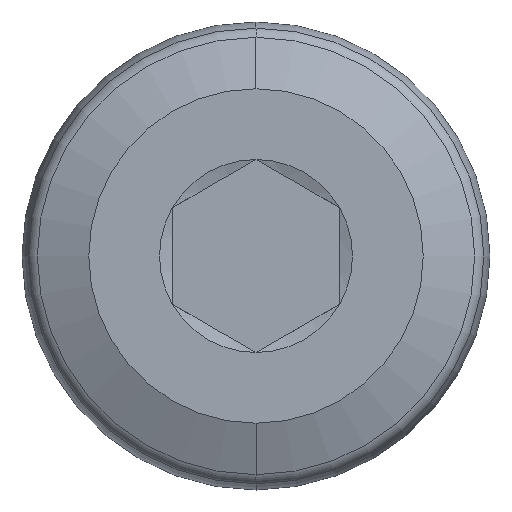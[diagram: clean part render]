
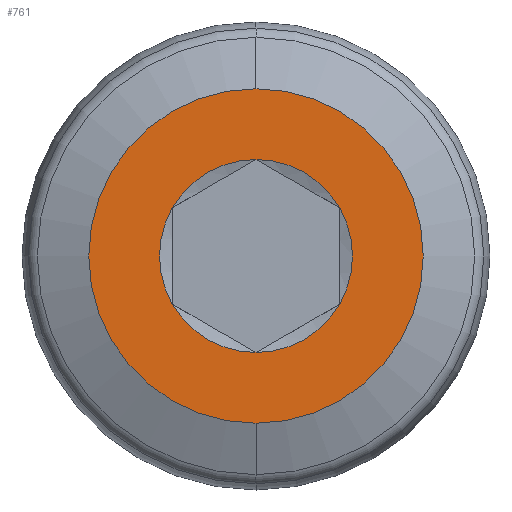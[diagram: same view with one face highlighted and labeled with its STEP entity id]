
A CAD part, left-side view. The second image highlights one B-rep face of the part: STEP entity #761.
In plain terms, the highlighted planar face has unit normal (-1, 0, 0).
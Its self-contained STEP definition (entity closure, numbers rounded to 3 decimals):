
#14 = CIRCLE ( 'NONE', #82, 2.887 ) ;
#15 = ORIENTED_EDGE ( 'NONE', *, *, #537, .T. ) ;
#20 = ORIENTED_EDGE ( 'NONE', *, *, #704, .T. ) ;
#23 = CARTESIAN_POINT ( 'NONE',  ( 0., 0., 0. ) ) ;
#32 = CARTESIAN_POINT ( 'NONE',  ( 0., 0., -2.887 ) ) ;
#34 = AXIS2_PLACEMENT_3D ( 'NONE', #23, #800, #221 ) ;
#41 = EDGE_CURVE ( 'NONE', #138, #515, #14, .T. ) ;
#75 = EDGE_CURVE ( 'NONE', #515, #622, #626, .T. ) ;
#82 = AXIS2_PLACEMENT_3D ( 'NONE', #428, #483, #668 ) ;
#86 = FACE_OUTER_BOUND ( 'NONE', #128, .T. ) ;
#89 = DIRECTION ( 'NONE',  ( 1., 0., 0. ) ) ;
#106 = EDGE_CURVE ( 'NONE', #647, #644, #717, .T. ) ;
#110 = AXIS2_PLACEMENT_3D ( 'NONE', #211, #727, #493 ) ;
#112 = DIRECTION ( 'NONE',  ( 0., 0., -1. ) ) ;
#114 = ORIENTED_EDGE ( 'NONE', *, *, #400, .T. ) ;
#117 = EDGE_CURVE ( 'NONE', #124, #481, #123, .T. ) ;
#123 = CIRCLE ( 'NONE', #34, 2.887 ) ;
#124 = VERTEX_POINT ( 'NONE', #736 ) ;
#128 = EDGE_LOOP ( 'NONE', ( #666, #759 ) ) ;
#137 = CARTESIAN_POINT ( 'NONE',  ( 0., 0., 0. ) ) ;
#138 = VERTEX_POINT ( 'NONE', #375 ) ;
#186 = DIRECTION ( 'NONE',  ( 1., 0., 0. ) ) ;
#199 = CIRCLE ( 'NONE', #688, 2.887 ) ;
#211 = CARTESIAN_POINT ( 'NONE',  ( 0., 0., 0. ) ) ;
#221 = DIRECTION ( 'NONE',  ( 0., 0., -1. ) ) ;
#250 = ORIENTED_EDGE ( 'NONE', *, *, #75, .T. ) ;
#278 = CARTESIAN_POINT ( 'NONE',  ( 0., 0., 0. ) ) ;
#289 = ORIENTED_EDGE ( 'NONE', *, *, #117, .T. ) ;
#328 = EDGE_CURVE ( 'NONE', #644, #647, #361, .T. ) ;
#335 = DIRECTION ( 'NONE',  ( 1., 0., 0. ) ) ;
#355 = DIRECTION ( 'NONE',  ( 0., 0., 1. ) ) ;
#361 = CIRCLE ( 'NONE', #577, 5. ) ;
#363 = DIRECTION ( 'NONE',  ( 1., 0., 0. ) ) ;
#375 = CARTESIAN_POINT ( 'NONE',  ( 0., 2.5, 1.443 ) ) ;
#389 = CARTESIAN_POINT ( 'NONE',  ( 0., 0., 0. ) ) ;
#400 = EDGE_CURVE ( 'NONE', #405, #138, #199, .T. ) ;
#401 = AXIS2_PLACEMENT_3D ( 'NONE', #614, #89, #559 ) ;
#405 = VERTEX_POINT ( 'NONE', #653 ) ;
#416 = FACE_BOUND ( 'NONE', #586, .T. ) ;
#428 = CARTESIAN_POINT ( 'NONE',  ( 0., 0., 0. ) ) ;
#441 = CARTESIAN_POINT ( 'NONE',  ( 0., 0., 0. ) ) ;
#466 = ORIENTED_EDGE ( 'NONE', *, *, #41, .T. ) ;
#481 = VERTEX_POINT ( 'NONE', #32 ) ;
#483 = DIRECTION ( 'NONE',  ( 1., 0., 0. ) ) ;
#493 = DIRECTION ( 'NONE',  ( 0., 0., -1. ) ) ;
#496 = AXIS2_PLACEMENT_3D ( 'NONE', #441, #694, #112 ) ;
#515 = VERTEX_POINT ( 'NONE', #546 ) ;
#535 = PLANE ( 'NONE',  #590 ) ;
#537 = EDGE_CURVE ( 'NONE', #481, #405, #790, .T. ) ;
#546 = CARTESIAN_POINT ( 'NONE',  ( 0., 0., 2.887 ) ) ;
#559 = DIRECTION ( 'NONE',  ( 0., 0., -1. ) ) ;
#577 = AXIS2_PLACEMENT_3D ( 'NONE', #137, #186, #587 ) ;
#578 = CIRCLE ( 'NONE', #496, 2.887 ) ;
#586 = EDGE_LOOP ( 'NONE', ( #466, #250, #20, #289, #15, #114 ) ) ;
#587 = DIRECTION ( 'NONE',  ( 0., 0., -1. ) ) ;
#590 = AXIS2_PLACEMENT_3D ( 'NONE', #797, #596, #355 ) ;
#596 = DIRECTION ( 'NONE',  ( -1., 0., 0. ) ) ;
#609 = DIRECTION ( 'NONE',  ( 0., 0., -1. ) ) ;
#614 = CARTESIAN_POINT ( 'NONE',  ( 0., 0., 0. ) ) ;
#622 = VERTEX_POINT ( 'NONE', #755 ) ;
#626 = CIRCLE ( 'NONE', #110, 2.887 ) ;
#631 = CARTESIAN_POINT ( 'NONE',  ( 0., 0., -5. ) ) ;
#644 = VERTEX_POINT ( 'NONE', #683 ) ;
#647 = VERTEX_POINT ( 'NONE', #631 ) ;
#653 = CARTESIAN_POINT ( 'NONE',  ( 0., 2.5, -1.443 ) ) ;
#666 = ORIENTED_EDGE ( 'NONE', *, *, #106, .F. ) ;
#668 = DIRECTION ( 'NONE',  ( 0., 0., -1. ) ) ;
#683 = CARTESIAN_POINT ( 'NONE',  ( 0., 0., 5. ) ) ;
#688 = AXIS2_PLACEMENT_3D ( 'NONE', #389, #335, #825 ) ;
#694 = DIRECTION ( 'NONE',  ( 1., 0., 0. ) ) ;
#701 = AXIS2_PLACEMENT_3D ( 'NONE', #278, #363, #609 ) ;
#704 = EDGE_CURVE ( 'NONE', #622, #124, #578, .T. ) ;
#717 = CIRCLE ( 'NONE', #401, 5. ) ;
#727 = DIRECTION ( 'NONE',  ( 1., 0., 0. ) ) ;
#736 = CARTESIAN_POINT ( 'NONE',  ( 0., -2.5, -1.443 ) ) ;
#755 = CARTESIAN_POINT ( 'NONE',  ( 0., -2.5, 1.443 ) ) ;
#759 = ORIENTED_EDGE ( 'NONE', *, *, #328, .F. ) ;
#761 = ADVANCED_FACE ( 'NONE', ( #416, #86 ), #535, .T. ) ;
#790 = CIRCLE ( 'NONE', #701, 2.887 ) ;
#797 = CARTESIAN_POINT ( 'NONE',  ( 0., 5., 0. ) ) ;
#800 = DIRECTION ( 'NONE',  ( 1., 0., 0. ) ) ;
#825 = DIRECTION ( 'NONE',  ( 0., 0., -1. ) ) ;
